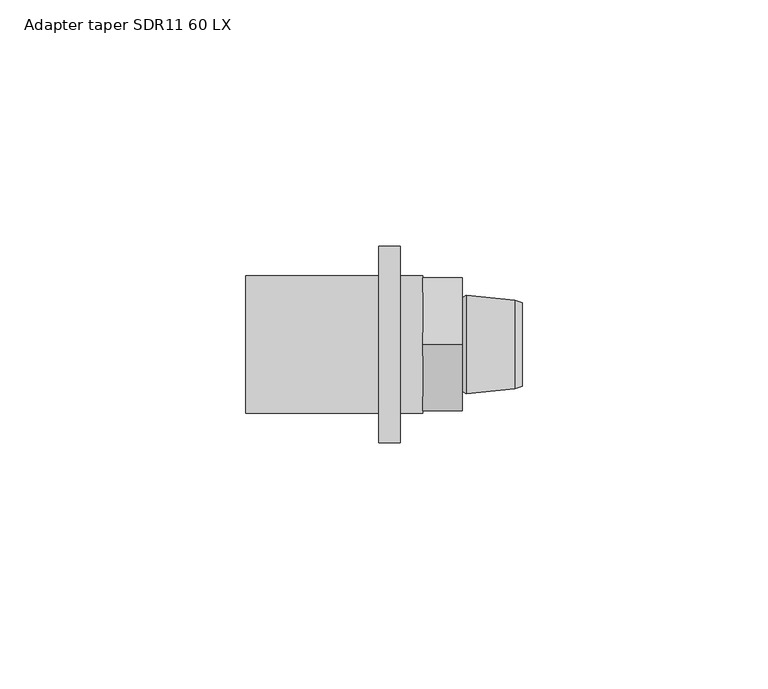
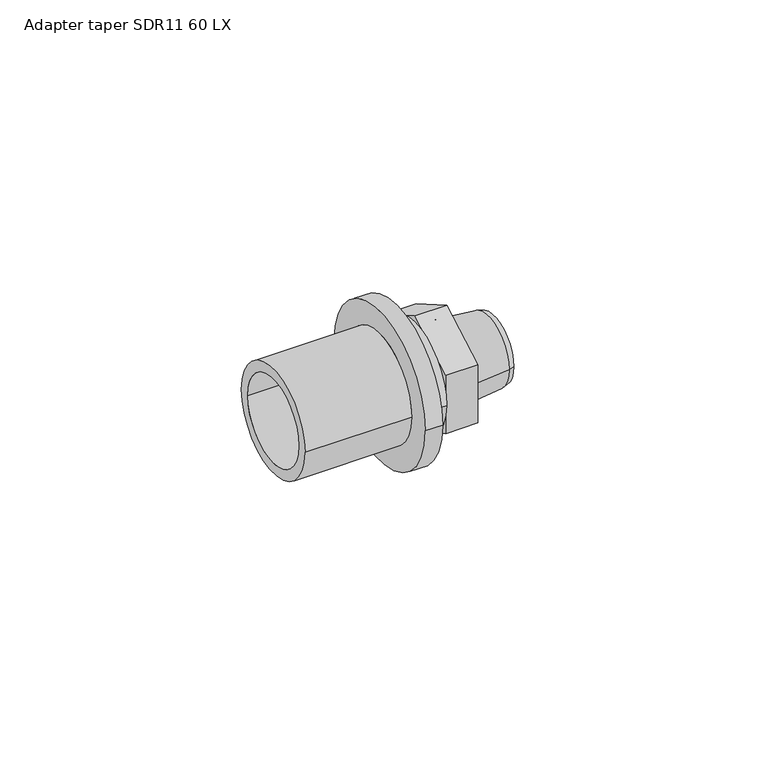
"""IFC4 building model written with IfcOpenShell, lengths in millimetres: pipe fitting geometry, Adapter taper SDR11 LX 60 Grad : Adapter taper SDR11 60 LX."""

from ifc_helpers import new_model, si_unit, frame, origin, place, context, project, spatial, polyline, circle_curve, outline, extrude, source, transform, mapped, element, save
from ifc_brep_helpers import plane_surface, cylinder_surface, revolved_surface, advanced_brep


def adapter_taper_sdr11_60_lx_c4b14268(model_context):
    return source(origin(), model_context, "Body", "SolidModel", [
        advanced_brep(
        [(-8.9, 13.95, 0.0), (-8.9, -13.95, 0.0), (-35.9, -13.95, 0.0), (-35.9, 13.95, 0.0), (-4.5, 20.0, 0.0), (-4.5, -20.0, 0.0), (-8.9, -20.0, 0.0), (-8.9, 20.0, 0.0), (0.0, 13.95, 0.0), (0.0, -13.95, 0.0), (-4.5, -13.95, 0.0), (-4.5, 13.95, 0.0), (-35.9, 11.2, 0.0), (-35.9, -11.2, 0.0), (0.0, -11.2, 0.0), (0.0, 11.2, 0.0)],
        [
            (0, 1, circle_curve(frame((-8.9, 0.0, 0.0), z_axis=(-1.0, 0.0, 0.0), x_axis=(0.0, -1.0, 0.0)), 13.95)),
            (1, 2),
            (2, 3, circle_curve(frame((-35.9, 0.0, 0.0), z_axis=(1.0, 0.0, 0.0), x_axis=(0.0, -1.0, 0.0)), 13.95)),
            (3, 0),
            (4, 5, circle_curve(frame((-4.5, 0.0, 0.0), z_axis=(-1.0, 0.0, 0.0), x_axis=(0.0, -1.0, 0.0)), 20.0)),
            (5, 6),
            (6, 7, circle_curve(frame((-8.9, 0.0, 0.0), z_axis=(1.0, 0.0, 0.0), x_axis=(0.0, -1.0, 0.0)), 20.0)),
            (7, 4),
            (8, 9, circle_curve(frame((0.0, 0.0, 0.0), z_axis=(-1.0, 0.0, 0.0), x_axis=(0.0, -1.0, 0.0)), 13.95)),
            (9, 10),
            (10, 11, circle_curve(frame((-4.5, 0.0, 0.0), z_axis=(1.0, 0.0, 0.0), x_axis=(0.0, -1.0, 0.0)), 13.95)),
            (11, 8),
            (12, 13, circle_curve(frame((-35.9, 0.0, 0.0), z_axis=(-1.0, 0.0, 0.0), x_axis=(0.0, -1.0, 0.0)), 11.2)),
            (13, 14),
            (14, 15, circle_curve(frame((0.0, 0.0, 0.0), z_axis=(1.0, 0.0, 0.0), x_axis=(0.0, -1.0, 0.0)), 11.2)),
            (15, 12),
            (2, 3, circle_curve(frame((-35.9, 0.0, 0.0), z_axis=(-1.0, 0.0, 0.0), x_axis=(0.0, 1.0, 0.0)), 13.95)),
            (12, 13, circle_curve(frame((-35.9, 0.0, 0.0), z_axis=(1.0, 0.0, 0.0), x_axis=(0.0, 1.0, 0.0)), 11.2)),
            (1, 0, circle_curve(frame((-8.9, 0.0, 0.0), z_axis=(-1.0, 0.0, 0.0), x_axis=(0.0, 1.0, 0.0)), 13.95)),
            (6, 7, circle_curve(frame((-8.9, 0.0, 0.0), z_axis=(-1.0, 0.0, 0.0), x_axis=(0.0, 1.0, 0.0)), 20.0)),
            (5, 4, circle_curve(frame((-4.5, 0.0, 0.0), z_axis=(-1.0, 0.0, 0.0), x_axis=(0.0, 1.0, 0.0)), 20.0)),
            (10, 11, circle_curve(frame((-4.5, 0.0, 0.0), z_axis=(-1.0, 0.0, 0.0), x_axis=(0.0, 1.0, 0.0)), 13.95)),
            (9, 8, circle_curve(frame((0.0, 0.0, 0.0), z_axis=(-1.0, 0.0, 0.0), x_axis=(0.0, 1.0, 0.0)), 13.95)),
            (14, 15, circle_curve(frame((0.0, 0.0, 0.0), z_axis=(-1.0, 0.0, 0.0), x_axis=(0.0, 1.0, 0.0)), 11.2)),
        ],
        [
            cylinder_surface(frame((0.0, 0.0, 0.0), z_axis=(1.0, 0.0, 0.0), x_axis=(0.0, -1.0, 0.0)), 13.95),
            cylinder_surface(frame((0.0, 0.0, 0.0), z_axis=(1.0, 0.0, 0.0), x_axis=(0.0, -1.0, 0.0)), 20.0),
            revolved_surface(polyline([(0.0, -11.2, 0.0), (-35.9, -11.2, 0.0)]), (0.0, 0.0, 0.0), (1.0, 0.0, 0.0)),
            plane_surface(frame((-35.9, 0.0, 0.0), z_axis=(-1.0, 0.0, 0.0), x_axis=(0.0, 1.0, 0.0))),
            cylinder_surface(frame((0.0, 0.0, 0.0), z_axis=(1.0, 0.0, 0.0), x_axis=(0.0, 1.0, 0.0)), 13.95),
            plane_surface(frame((-8.9, 0.0, 0.0), z_axis=(-1.0, 0.0, 0.0), x_axis=(0.0, 1.0, 0.0))),
            cylinder_surface(frame((0.0, 0.0, 0.0), z_axis=(1.0, 0.0, 0.0), x_axis=(0.0, 1.0, 0.0)), 20.0),
            plane_surface(frame((-4.5, 0.0, 0.0), z_axis=(1.0, 0.0, 0.0), x_axis=(0.0, 1.0, 0.0))),
            plane_surface(frame((0.0, 0.0, 0.0), z_axis=(1.0, 0.0, 0.0), x_axis=(0.0, 1.0, 0.0))),
            revolved_surface(polyline([(0.0, 11.2, 0.0), (-35.9, 11.2, 0.0)]), (0.0, 0.0, 0.0), (1.0, 0.0, 0.0)),
        ],
        [
            (0, [[1, 2, 3, 4]]),
            (1, [[5, 6, 7, 8]]),
            (0, [[9, 10, 11, 12]]),
            (2, [[13, 14, 15, 16]]),
            (3, [[17, -3], [18, -13]]),
            (4, [[19, -4, -17, -2]]),
            (5, [[20, -7], [-19, -1]]),
            (6, [[21, -8, -20, -6]]),
            (7, [[-21, -5], [22, -11]]),
            (4, [[23, -12, -22, -10]]),
            (8, [[-23, -9], [24, -15]]),
            (9, [[-18, -16, -24, -14]]),
        ],
    ),
        advanced_brep(
        [(9.2032803, 6.5, 0.0), (9.2032803, -6.5, 0.0), (20.2, -6.5, 0.0), (20.2, 6.5, 0.0), (8.1, 5.3967197, 0.0), (8.1, -5.3967197, 0.0), (8.8406902, 10.0, 0.0), (8.8406902, -10.0, 0.0), (8.1, -9.5, 0.0), (8.1, 9.5, 0.0), (18.7000007, 9.0, 0.0), (18.7000007, -9.0, 0.0), (20.2, 8.5, 0.0), (20.2, -8.5, 0.0)],
        [
            (0, 1, circle_curve(frame((9.2032803, 0.0, 0.0), z_axis=(-1.0, 0.0, 0.0), x_axis=(0.0, -1.0, 0.0)), 6.5)),
            (1, 2),
            (2, 3, circle_curve(frame((20.2, 0.0, 0.0), z_axis=(1.0, 0.0, 0.0), x_axis=(0.0, -1.0, 0.0)), 6.5)),
            (3, 0),
            (4, 5, circle_curve(frame((8.1, 0.0, 0.0), z_axis=(-1.0, 0.0, 0.0), x_axis=(0.0, -1.0, 0.0)), 5.3967197)),
            (5, 1),
            (0, 4),
            (6, 7, circle_curve(frame((8.8406902, 0.0, 0.0), z_axis=(-1.0, 0.0, 0.0), x_axis=(0.0, -1.0, 0.0)), 10.0)),
            (7, 8),
            (8, 9, circle_curve(frame((8.1, 0.0, 0.0), z_axis=(1.0, 0.0, 0.0), x_axis=(0.0, -1.0, 0.0)), 9.5)),
            (9, 6),
            (10, 11, circle_curve(frame((18.7000007, 0.0, 0.0), z_axis=(-1.0, 0.0, 0.0), x_axis=(0.0, -1.0, 0.0)), 9.0)),
            (11, 7),
            (6, 10),
            (12, 13, circle_curve(frame((20.2, 0.0, 0.0), z_axis=(-1.0, 0.0, 0.0), x_axis=(0.0, -1.0, 0.0)), 8.5)),
            (13, 11),
            (10, 12),
            (1, 0, circle_curve(frame((9.2032803, 0.0, 0.0), z_axis=(-1.0, 0.0, 0.0), x_axis=(0.0, 1.0, 0.0)), 6.5)),
            (3, 2, circle_curve(frame((20.2, 0.0, 0.0), z_axis=(1.0, 0.0, 0.0), x_axis=(0.0, 1.0, 0.0)), 6.5)),
            (5, 4, circle_curve(frame((8.1, 0.0, 0.0), z_axis=(-1.0, 0.0, 0.0), x_axis=(0.0, 1.0, 0.0)), 5.3967197)),
            (8, 9, circle_curve(frame((8.1, 0.0, 0.0), z_axis=(-1.0, 0.0, 0.0), x_axis=(0.0, 1.0, 0.0)), 9.5)),
            (7, 6, circle_curve(frame((8.8406902, 0.0, 0.0), z_axis=(-1.0, 0.0, 0.0), x_axis=(0.0, 1.0, 0.0)), 10.0)),
            (11, 10, circle_curve(frame((18.7000007, 0.0, 0.0), z_axis=(-1.0, 0.0, 0.0), x_axis=(0.0, 1.0, 0.0)), 9.0)),
            (13, 12, circle_curve(frame((20.2, 0.0, 0.0), z_axis=(-1.0, 0.0, 0.0), x_axis=(0.0, 1.0, 0.0)), 8.5)),
        ],
        [
            revolved_surface(polyline([(20.2, -6.5, 0.0), (9.2032803, -6.5, 0.0)]), (0.0, 0.0, 0.0), (1.0, 0.0, 0.0)),
            revolved_surface(polyline([(9.2032803, -6.5, 0.0), (8.1, -5.3967197, 0.0)]), (0.0, 0.0, 0.0), (1.0, 0.0, 0.0)),
            revolved_surface(polyline([(8.1, -9.5, 0.0), (8.8406902, -10.0, 0.0)]), (0.0, 0.0, 0.0), (1.0, 0.0, 0.0)),
            revolved_surface(polyline([(8.8406902, -10.0, 0.0), (18.7000007, -9.0, 0.0)]), (0.0, 0.0, 0.0), (1.0, 0.0, 0.0)),
            revolved_surface(polyline([(18.7000007, -9.0, 0.0), (20.2, -8.5, 0.0)]), (0.0, 0.0, 0.0), (1.0, 0.0, 0.0)),
            revolved_surface(polyline([(20.2, 6.5, 0.0), (9.2032803, 6.5, 0.0)]), (0.0, 0.0, 0.0), (1.0, 0.0, 0.0)),
            revolved_surface(polyline([(9.2032803, 6.5, 0.0), (8.1, 5.3967197, 0.0)]), (0.0, 0.0, 0.0), (1.0, 0.0, 0.0)),
            plane_surface(frame((8.1, 0.0, 0.0), z_axis=(-1.0, 0.0, 0.0), x_axis=(0.0, 1.0, 0.0))),
            revolved_surface(polyline([(8.1, 9.5, 0.0), (8.8406902, 10.0, 0.0)]), (0.0, 0.0, 0.0), (1.0, 0.0, 0.0)),
            revolved_surface(polyline([(8.8406902, 10.0, 0.0), (18.7000007, 9.0, 0.0)]), (0.0, 0.0, 0.0), (1.0, 0.0, 0.0)),
            revolved_surface(polyline([(18.7000007, 9.0, 0.0), (20.2, 8.5, 0.0)]), (0.0, 0.0, 0.0), (1.0, 0.0, 0.0)),
            plane_surface(frame((20.2, 0.0, 0.0), z_axis=(1.0, 0.0, 0.0), x_axis=(0.0, 1.0, 0.0))),
        ],
        [
            (0, [[1, 2, 3, 4]]),
            (1, [[5, 6, -1, 7]]),
            (2, [[8, 9, 10, 11]]),
            (3, [[12, 13, -8, 14]]),
            (4, [[15, 16, -12, 17]]),
            (5, [[18, -4, 19, -2]]),
            (6, [[20, -7, -18, -6]]),
            (7, [[21, -10], [-20, -5]]),
            (8, [[22, -11, -21, -9]]),
            (9, [[23, -14, -22, -13]]),
            (10, [[24, -17, -23, -16]]),
            (11, [[-24, -15], [-19, -3]]),
        ],
    ),
        extrude(outline(polyline([(-13.5, 7.7942286), (0.0, 15.5884573), (13.5, 7.7942286), (13.5, -7.7942286), (0.0, -15.5884573), (-13.5, -7.7942286), (-13.5, 7.7942286)])), frame((0.0, 0.0, 0.0), z_axis=(1.0, 0.0, 0.0), x_axis=(0.0, 1.0, 0.0)), (0.0, 0.0, 1.0), 8.1),
    ])


if __name__ == "__main__":
    model = new_model("IFC4")
    model_context = context("Model", 3, world=origin())
    ifc_project = project(units=[si_unit("LENGTHUNIT", "METRE", prefix="MILLI")], contexts=[model_context])
    site = spatial("IfcSite", under=ifc_project)
    building = spatial("IfcBuilding", under=site)
    placement = place(None, origin())
    adapter_taper_sdr11_60_lx_shape = adapter_taper_sdr11_60_lx_c4b14268(model_context)
    element("IfcPipeFitting", 1, ObjectType="Adapter taper SDR11 LX 60 Grad : Adapter taper SDR11 60 LX", at=placement, inside=building, context=model_context, shape_type="MappedRepresentation", body=[
        mapped(adapter_taper_sdr11_60_lx_shape, transform((0.0, 0.0, 0.0), x_axis=(1.0, 0.0, 0.0), y_axis=(0.0, 1.0, 0.0), z_axis=(0.0, 0.0, 1.0))),
    ])
    save(model, "model.ifc")
